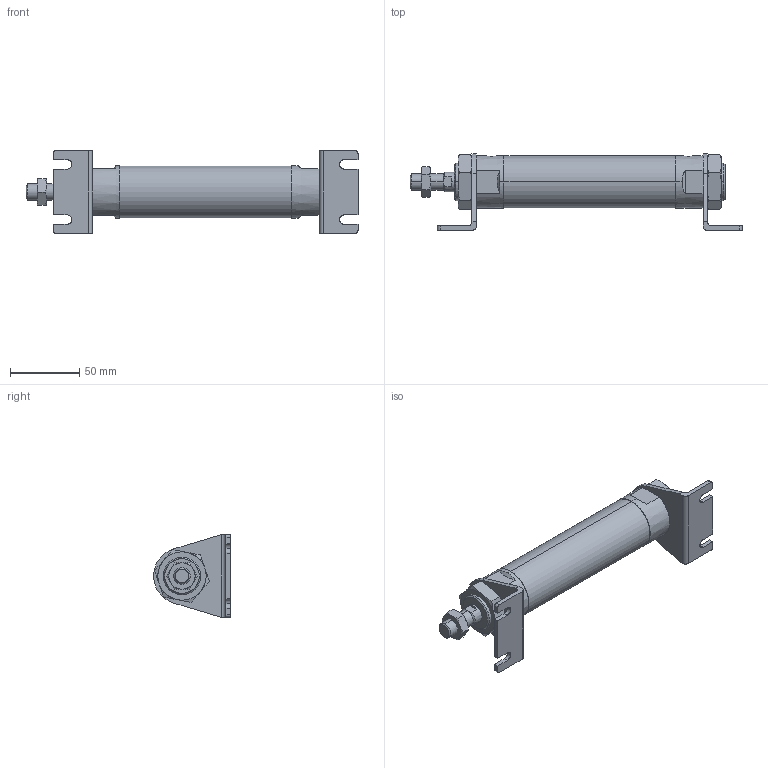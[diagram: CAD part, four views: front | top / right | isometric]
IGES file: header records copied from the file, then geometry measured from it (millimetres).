
Start section: SolidWorks IGES file using analytic representation for surfaces
Global section: file name: C:\Users\Toshiba\Desktop\J#2-32-75-L.IGS; native system: SolidWorks 2014; preprocessor: SolidWorks 2014; author: Toshiba; date: 160310.085828; units: millimetre
Bounding box: 240.2 x 55.5 x 60 mm (x, y, z)
Surface area: 49148.1 mm2 (no closed solid volume)
Topology: 0 solids, 0 shells, 170 faces, 2728 edges, 2724 vertices
Faces by surface type: bspline 107, revolution 63
